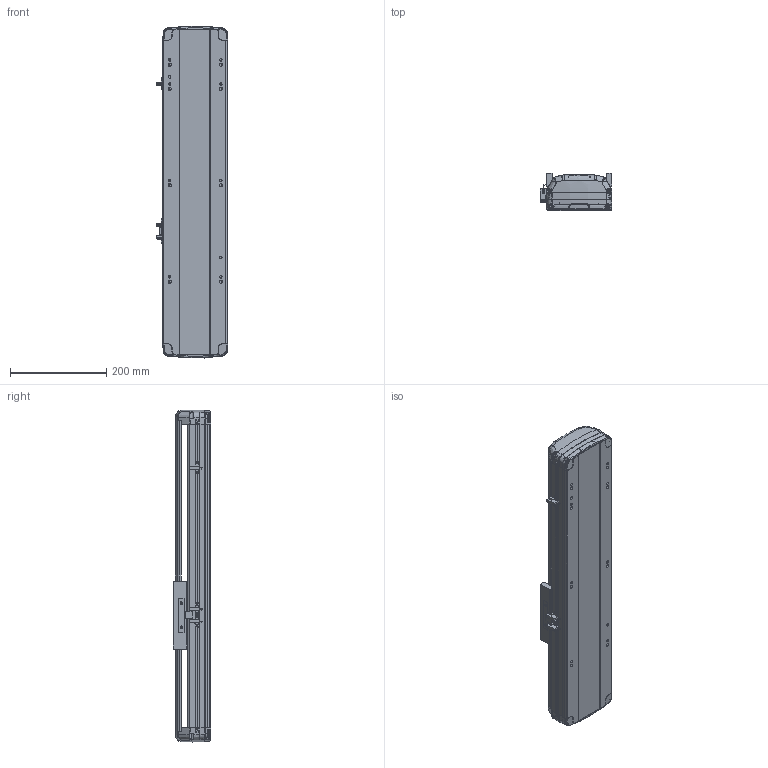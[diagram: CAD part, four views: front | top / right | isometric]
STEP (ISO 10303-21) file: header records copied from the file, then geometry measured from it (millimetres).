
FILE_DESCRIPTION (( 'STEP AP214' ), '1' );
FILE_NAME ('RTH14-XX-300-B-M20-C4.STEP', '2025-10-25T02:19:04', ( 'Microsoft' ), ( 'Microsoft' ), 'SwSTEP 2.0', 'SolidWorks 2018', '' );
FILE_SCHEMA (( 'AUTOMOTIVE_DESIGN' ));
Length unit declared in the file: millimetre
Products named in the file (7): N_OMRON EE-SX672 传感器^RTH14-XX-XX-B-M20-C4; N_RTH14-R-004-SFSR16賑釱^RTH14-XX-XX-B-M20-C4; N_RTH13-L-012感应片（外置）^RTH14-XX-XX-B-M20-C4; RTH14-XX-300-B-M20-C4; N_RTH14-B-007奻裔^RTH14-XX-XX-B-M20-C4; N_RTH14-GY-001P^RTH14-XX-XX-B-M20-C4; N_RTH14-B-011P菁釱^RTH14-XX-XX-B-M20-C4
Assembly tree (9 placements, depth 2):
  RTH14-XX-300-B-M20-C4
    N_RTH14-B-011P菁釱^RTH14-XX-XX-B-M20-C4
    N_RTH14-B-007奻裔^RTH14-XX-XX-B-M20-C4
    N_RTH13-L-012感应片（外置）^RTH14-XX-XX-B-M20-C4
    N_OMRON EE-SX672 传感器^RTH14-XX-XX-B-M20-C4  x3
    N_RTH14-R-004-SFSR16賑釱^RTH14-XX-XX-B-M20-C4
    N_RTH14-GY-001P^RTH14-XX-XX-B-M20-C4  x2
Bounding box: 148.5 x 78.03 x 688.74 mm (x, y, z)
Volume: 2963722.4 mm3; surface area: 697255.8 mm2
Topology: 9 solids, 9 shells, 1900 faces, 5350 edges, 3482 vertices
Faces by surface type: plane 975, bspline 450, cylinder 411, cone 56, torus 8
Entity records: 45974 total; most frequent: CARTESIAN_POINT 20702, ORIENTED_EDGE 5716, DIRECTION 4161, EDGE_CURVE 2858, VERTEX_POINT 1868, LINE 1617, VECTOR 1617, AXIS2_PLACEMENT_3D 1272
